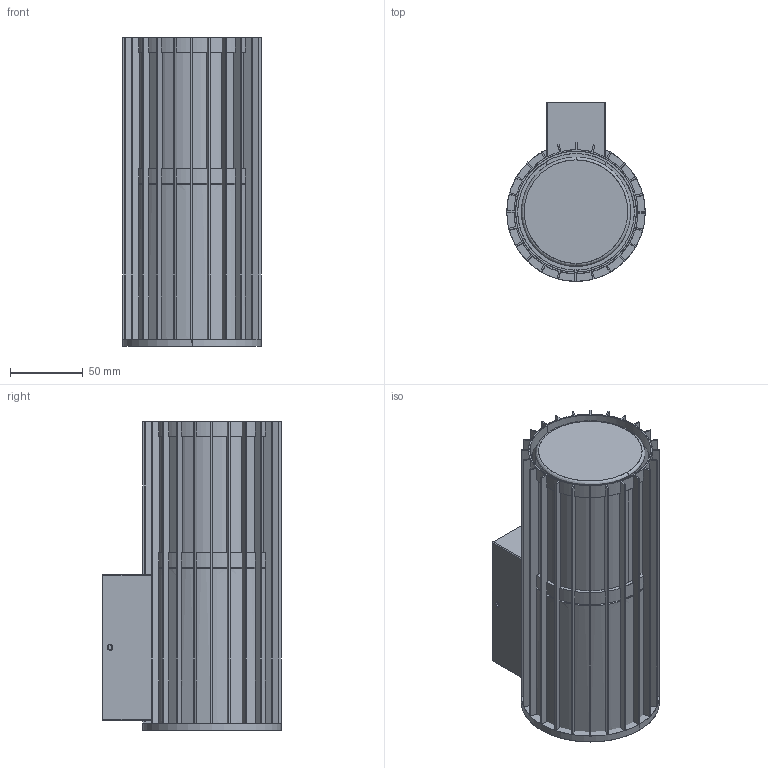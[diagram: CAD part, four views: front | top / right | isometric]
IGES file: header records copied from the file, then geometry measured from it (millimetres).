
Start section: SolidWorks IGES file using analytic representation for surfaces
Global section: file name: C:\Users\anna.bielnik\Desktop\SHIRA I\NL2500034645.IGS; native system: SolidWorks 2025; preprocessor: SolidWorks 2025; author: anna.bielnik; date: 260410.130132; units: millimetre
Bounding box: 95 x 122.5 x 212 mm (x, y, z)
Surface area: 218973.1 mm2 (no closed solid volume)
Topology: 0 solids, 0 shells, 372 faces, 3784 edges, 3784 vertices
Faces by surface type: bspline 248, revolution 124
